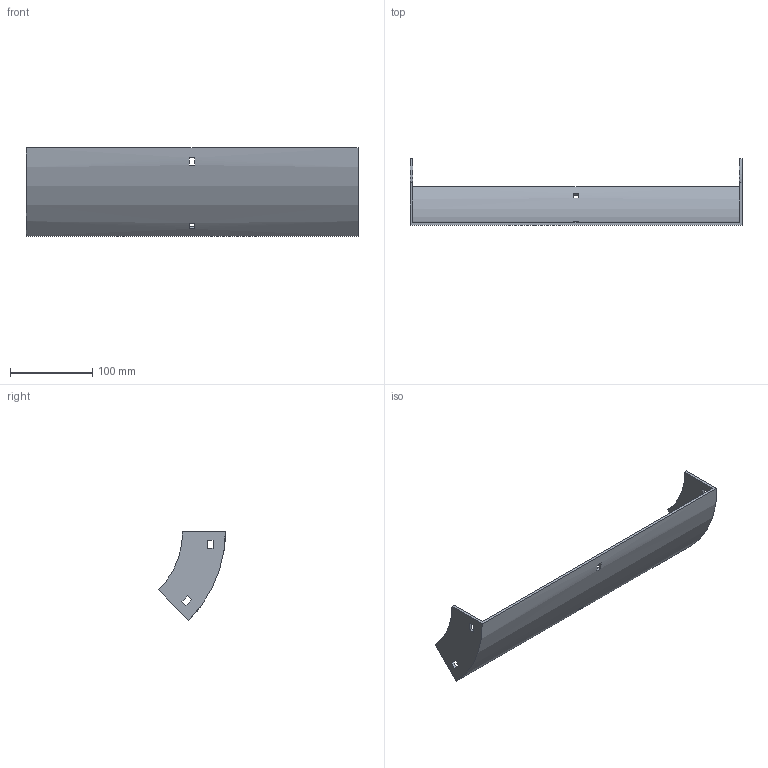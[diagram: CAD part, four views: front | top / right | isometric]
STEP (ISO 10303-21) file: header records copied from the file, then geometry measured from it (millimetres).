
FILE_DESCRIPTION (( 'STEP AP214' ), '1' );
FILE_NAME ('31B1B400.step', '2025-02-21T09:46:46', ( '' ), ( '' ), 'SwSTEP 2.0', 'SolidWorks 2023', '' );
FILE_SCHEMA (( 'AUTOMOTIVE_DESIGN' ));
Length unit declared in the file: millimetre
Products named in the file (1): 31B1B400
Bounding box: 404 x 81.29 x 107.48 mm (x, y, z)
Volume: 198598.9 mm3; surface area: 118245.9 mm2
Topology: 1 solids, 1 shells, 34 faces, 96 edges, 64 vertices
Faces by surface type: plane 30, cylinder 4
Entity records: 1143 total; most frequent: CARTESIAN_POINT 195, ORIENTED_EDGE 192, DIRECTION 182, EDGE_CURVE 96, VECTOR 80, LINE 80, VERTEX_POINT 64, AXIS2_PLACEMENT_3D 51
